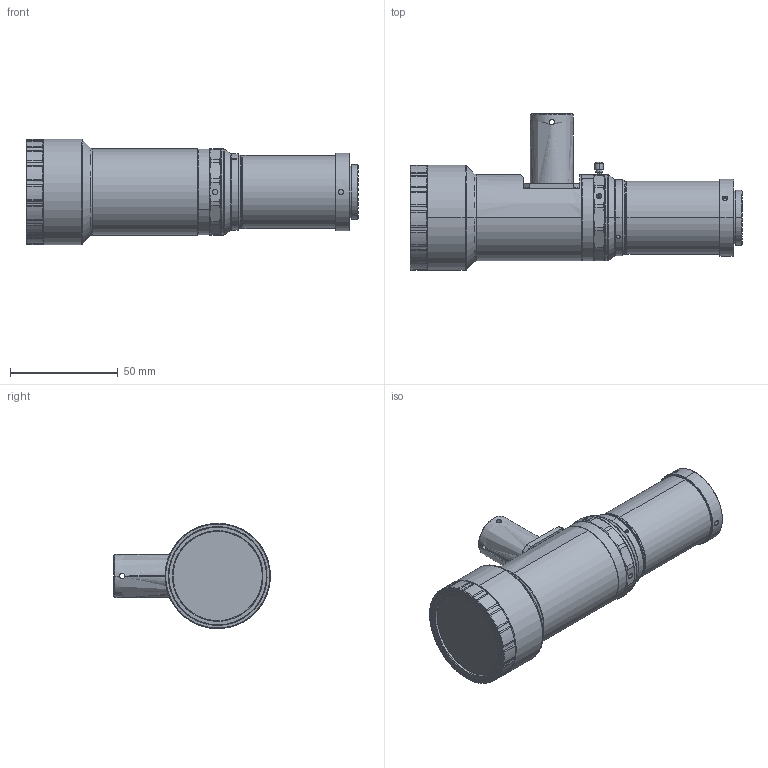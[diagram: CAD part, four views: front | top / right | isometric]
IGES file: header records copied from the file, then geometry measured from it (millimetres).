
Start section: SolidWorks IGES file using analytic representation for surfaces
Global section: file name: C:\Users\gc\Desktop\未完成工作堆放区\DTCA小倍率\DTCA121-13.3\发客户3D\DTCA121-13.3C.IGS,15HSolidWorks; native system: 2017; preprocessor: SolidWorks 2017; author: gc; date: 231228.150807; units: millimetre
Bounding box: 154.4 x 72.9 x 49 mm (x, y, z)
Surface area: 32533.7 mm2 (no closed solid volume)
Topology: 0 solids, 0 shells, 460 faces, 7213 edges, 7211 vertices
Faces by surface type: revolution 351, bspline 109
